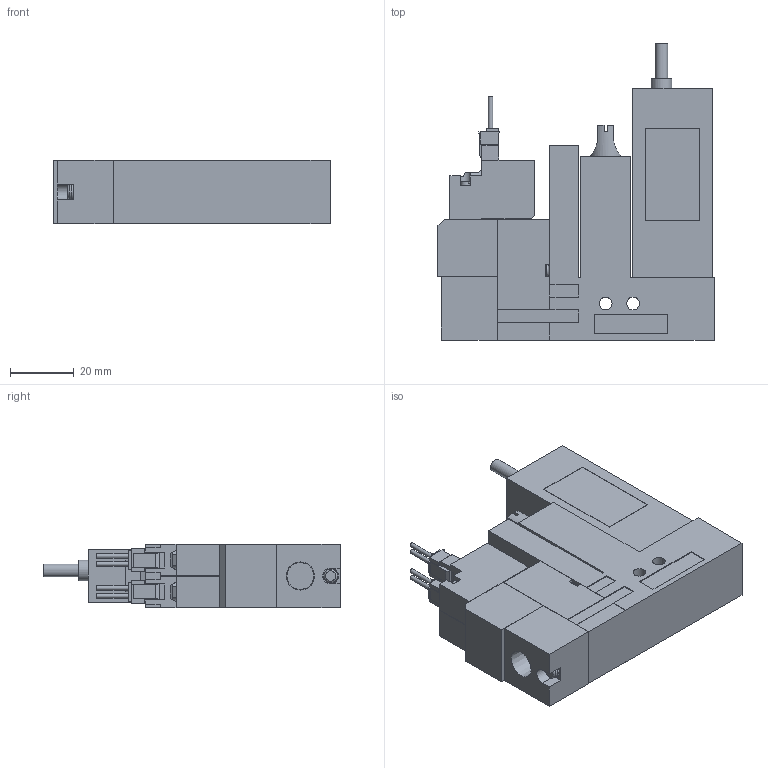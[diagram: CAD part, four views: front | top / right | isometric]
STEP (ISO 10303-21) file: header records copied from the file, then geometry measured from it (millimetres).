
FILE_DESCRIPTION(('STEP AP203'),'1');
FILE_NAME('VG_VGPL5BLR.stp','2025-02-17T00:17:58',(' '),(' '),'Spatial InterOp 3D',' ',' ');
FILE_SCHEMA(('CONFIG_CONTROL_DESIGN'));
Length unit declared in the file: millimetre
Products named in the file (5): BMC22S※※※※VG_VGPL5BLR; Solenoid valve B; Pressure sensor VGL; Unit L; Base SR10R
Assembly tree (4 placements, depth 2):
  BMC22S※※※※VG_VGPL5BLR
    Solenoid valve B
    Pressure sensor VGL
    Unit L
    Base SR10R
Bounding box: 86.6 x 93 x 20 mm (x, y, z)
Volume: 99073.3 mm3; surface area: 26371.4 mm2
Topology: 4 solids, 4 shells, 358 faces, 948 edges, 628 vertices
Faces by surface type: plane 306, cylinder 43, cone 6, torus 3
Full cylindrical faces by diameter (mm): 1.4 x4, 2.5 x3, 3 x4, 3.5 x4, 3.6 x1, 4 x6, 4.134 x1, 6 x1, 6.5 x1
Entity records: 11034 total; most frequent: CARTESIAN_POINT 1978, ORIENTED_EDGE 1804, DIRECTION 1750, EDGE_CURVE 902, LINE 772, VECTOR 772, VERTEX_POINT 617, AXIS2_PLACEMENT_3D 489
